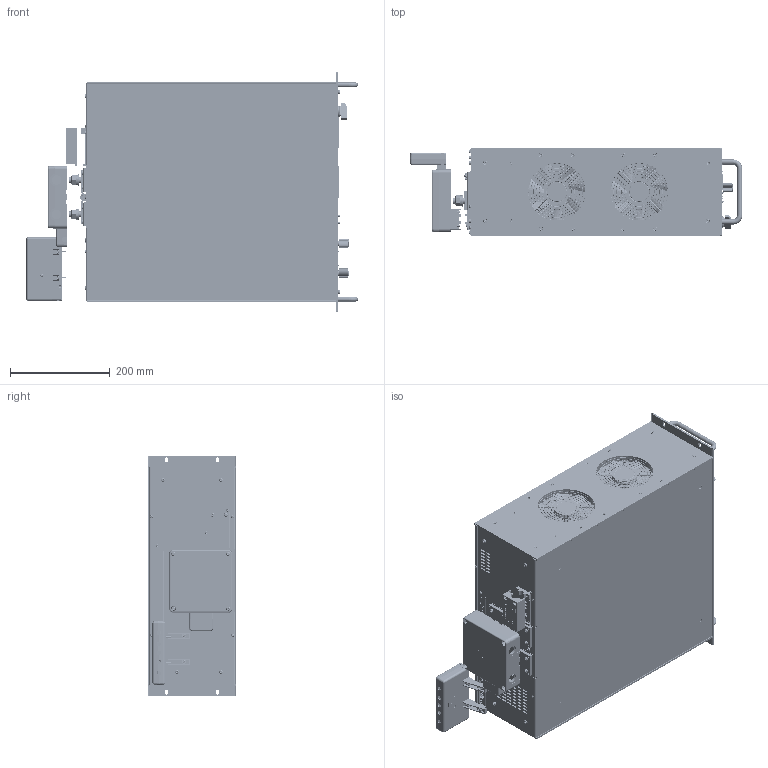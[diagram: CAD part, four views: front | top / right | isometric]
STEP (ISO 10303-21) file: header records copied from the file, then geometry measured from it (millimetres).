
FILE_DESCRIPTION(/* description */ (''),/* implementation_level */ '2;1');
FILE_NAME(/* name */ 'A:\Data\SM6000\SM6000 presentation\step file\SM15-400\SM15-400simplify.stp',/* time_stamp */ '2022-11-11T12:13:40+01:00',/* author */ ('Simon'),/* organization */ (''),/* preprocessor_version */ 'ST-DEVELOPER v18.1',/* originating_system */ 'Autodesk Inventor 2022',/* authorisation */ '');
FILE_SCHEMA (('AUTOMOTIVE_DESIGN { 1 0 10303 214 3 1 1 }'));
Products named in the file (1): SM15-400simplify
Bounding box: 666 x 177 x 482.5 mm (x, y, z)
Volume: 38478836.9 mm3; surface area: 1156755 mm2
Topology: 5 solids, 5 shells, 9540 faces, 25158 edges, 16311 vertices
Faces by surface type: plane 5982, bspline 1376, cylinder 1276, cone 669, torus 198, sphere 39
Full cylindrical faces by diameter (mm): 0.339 x5, 0.5 x22, 1.4 x16, 1.5 x1, 2.459 x2, 2.5 x4, 2.9 x1, 3 x25, 3.2 x32, 3.242 x10, 3.5 x18, 4 x35, 4.1 x23, 4.2 x8, 4.3 x1, 4.5 x14, 5 x1, 5.5 x6, 5.6 x4, 6 x13, 6.2 x3, 6.5 x2, 7.5 x2, 7.7 x4, 7.8 x40, 8.5 x2, 8.8 x2, 9.7 x1, 10 x6, 10.5 x1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
Entity records: 321930 total; most frequent: CARTESIAN_POINT 87773, ORIENTED_EDGE 50170, DIRECTION 40755, EDGE_CURVE 25085, VERTEX_POINT 16311, LINE 15783, VECTOR 15783, AXIS2_PLACEMENT_3D 12486
